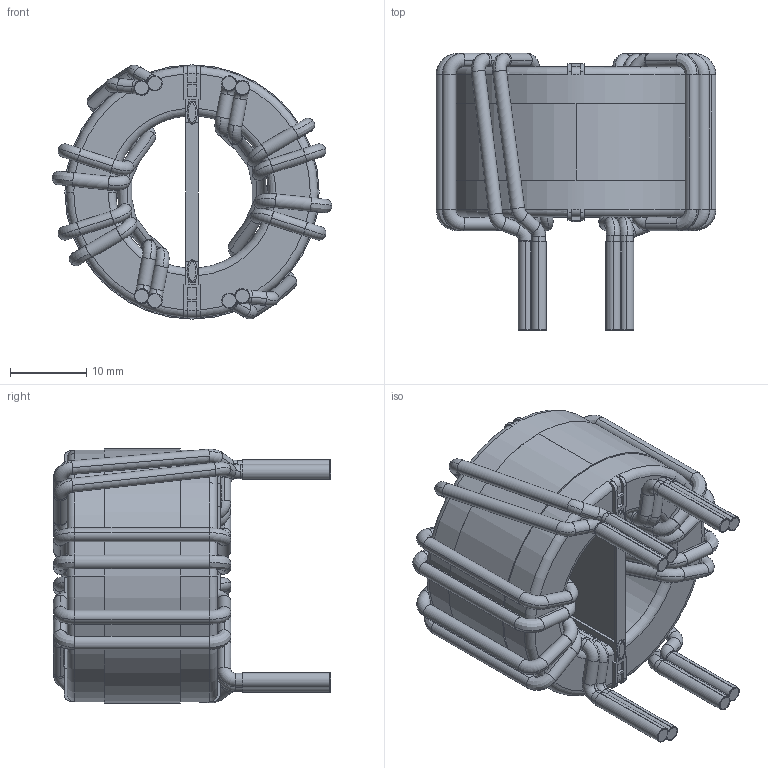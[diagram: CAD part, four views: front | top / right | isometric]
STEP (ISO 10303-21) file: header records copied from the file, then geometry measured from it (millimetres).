
FILE_DESCRIPTION (( 'STEP AP203' ), '1' );
FILE_NAME ('HN-H-901U-40A-SW.STEP', '2021-04-27T13:38:29', ( 'Windows User' ), ( '' ), 'SwSTEP 2.0', 'SolidWorks 2015', '' );
FILE_SCHEMA (( 'CONFIG_CONTROL_DESIGN' ));
Length unit declared in the file: inch
Products named in the file (4): HN-H-901U-40A-SW; HN-H-901U-40A-CORE-SW; HN-H-901U-40A-FRAME-SW; HN-H-901U-40A-COIL-SW
Assembly tree (3 placements, depth 2):
  HN-H-901U-40A-SW
    HN-H-901U-40A-CORE-SW
    HN-H-901U-40A-COIL-SW
    HN-H-901U-40A-FRAME-SW
Bounding box: 36.72 x 36.36 x 33.36 mm (x, y, z)
Volume: 13581.7 mm3; surface area: 12897.7 mm2
Topology: 43 solids, 43 shells, 599 faces, 1461 edges, 950 vertices
Faces by surface type: plane 192, cylinder 183, torus 172, bspline 52
Entity records: 20839 total; most frequent: CARTESIAN_POINT 6116, DIRECTION 3249, ORIENTED_EDGE 2922, EDGE_CURVE 1461, AXIS2_PLACEMENT_3D 1371, VERTEX_POINT 950, CIRCLE 818, EDGE_LOOP 605
